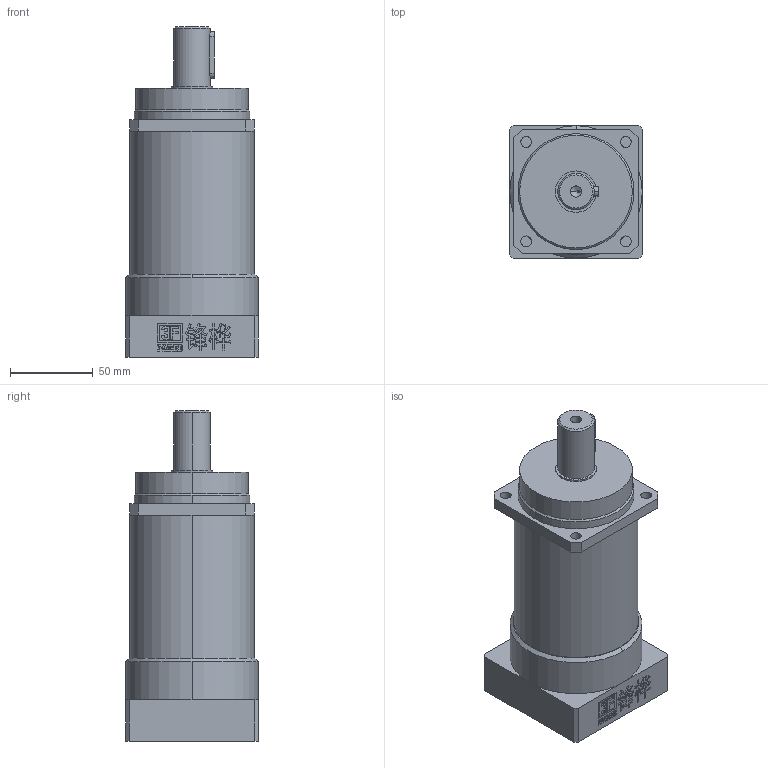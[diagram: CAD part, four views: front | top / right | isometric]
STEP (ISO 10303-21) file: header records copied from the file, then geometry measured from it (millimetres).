
FILE_DESCRIPTION (( 'STEP AP214' ), '1' );
FILE_NAME ('VRS075-L2.STEP', '2019-08-31T05:36:01', ( '微软用户' ), ( '微软中国' ), 'SwSTEP 2.0', 'SolidWorks 2014', '' );
FILE_SCHEMA (( 'AUTOMOTIVE_DESIGN' ));
Length unit declared in the file: millimetre
Products named in the file (2): VRS075-L2
Bounding box: 80 x 80 x 199.5 mm (x, y, z)
Volume: 734614.9 mm3; surface area: 64415 mm2
Topology: 1 solids, 1 shells, 713 faces, 2029 edges, 1338 vertices
Faces by surface type: plane 600, bspline 60, cylinder 37, cone 16
Entity records: 29978 total; most frequent: CARTESIAN_POINT 4920, ORIENTED_EDGE 4038, DIRECTION 3286, EDGE_CURVE 2019, VECTOR 1814, LINE 1814, VERTEX_POINT 1338, EDGE_LOOP 751
